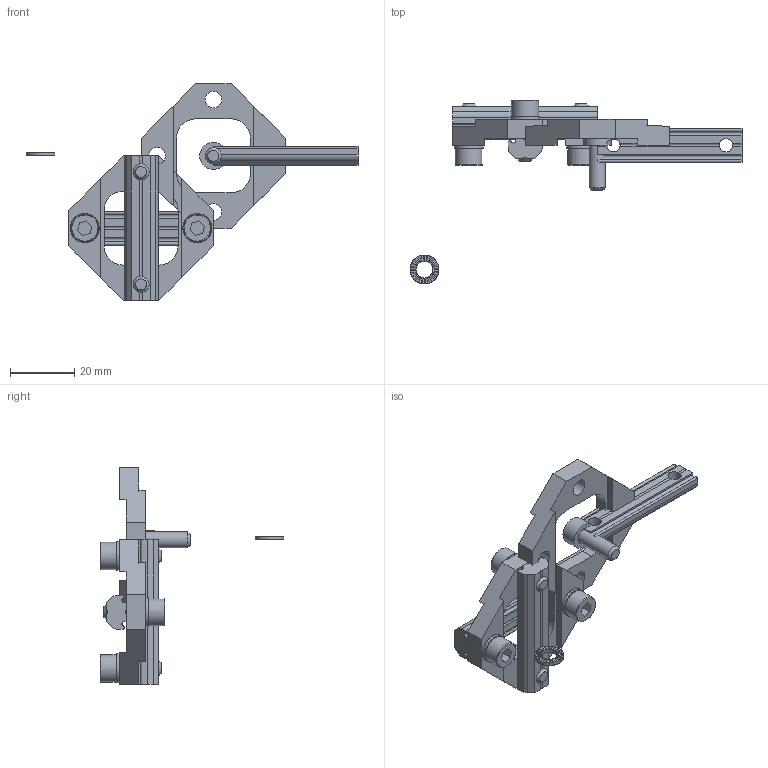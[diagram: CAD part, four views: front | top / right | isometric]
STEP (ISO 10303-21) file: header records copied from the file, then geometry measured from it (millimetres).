
FILE_DESCRIPTION( ( 'Unknown' ), '1' );
FILE_NAME( 'C:/Users/Fabrizio/Desktop/DISEGNI ACCESSORI FP SOLIDEDGE/CA.KPLX.2525.stp', 'Unknown', ( 'Unknown' ), ( 'Unknown' ), 'PSStep 13.0', 'Unknown', ' ' );
FILE_SCHEMA( ( 'AUTOMOTIVE_DESIGN { 1 0 10303 214 1 1 1 1 }' ) );
Length unit declared in the file: millimetre
Products named in the file (5): Assem1; V-tcei M 5 x 14; KPLX.2525; R.5.SCH; CA.GWP.5.35
Bounding box: 103.3 x 57.24 x 67.5 mm (x, y, z)
Volume: 19131.6 mm3; surface area: 15295.6 mm2
Topology: 10 solids, 15 shells, 1181 faces, 3466 edges, 2298 vertices
Faces by surface type: plane 1093, cylinder 78, torus 5, cone 5
Full cylindrical faces by diameter (mm): 4.134 x6, 5 x5, 5.2 x8, 5.3 x5, 8.5 x5, 9 x5
Entity records: 10861 total; most frequent: CARTESIAN_POINT 1622, DIRECTION 1545, ORIENTED_EDGE 1522, EDGE_CURVE 761, AXIS2_PLACEMENT_3D 515, LINE 515, VECTOR 515, VERTEX_POINT 512
